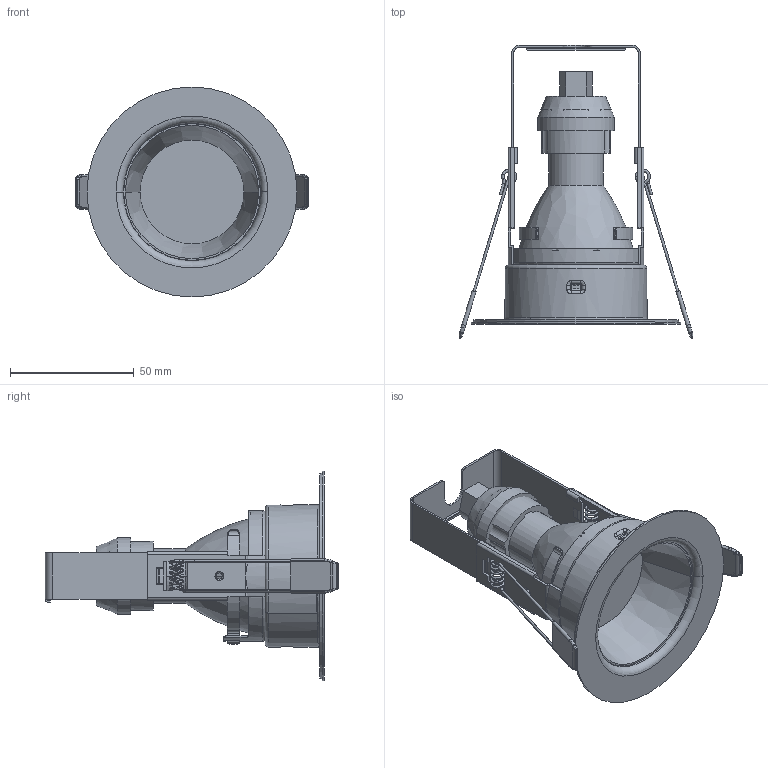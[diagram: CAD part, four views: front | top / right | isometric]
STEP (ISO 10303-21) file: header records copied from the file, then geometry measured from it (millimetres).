
FILE_DESCRIPTION((''),'2;1');
FILE_NAME('TC34016_ASM','2025-10-20T10:30:06',('Administrator'),(''),'CREO PARAMETRIC BY PTC INC, 2018100','CREO PARAMETRIC BY PTC INC, 2018100','');
FILE_SCHEMA(('CONFIG_CONTROL_DESIGN','SHAPE_APPEARANCE_LAYERS_GROUPS'));
Length unit declared in the file: millimetre
Products named in the file (17): W0624-1_02; SJ0561_02; SHENCAN65_ASM_14_A1_04_SZ_07_02_ASM; 123_04_SZ_07_02_ASM; W0200-2_07_02; F0128_07_02; GU10-DENGBEI_07_02; SJ0553_07_02; W0624-2_07_02; P0630_07_02; WG0209-1_07_02; WG0209-2_07_02; WG0737_07_02; W0614_07_02; W0201_07_02; P0190_07_02; TC34016_ASM
Assembly tree (19 placements, depth 4):
  TC34016_ASM
    123_04_SZ_07_02_ASM
      SHENCAN65_ASM_14_A1_04_SZ_07_02_ASM
        W0624-1_02
        SJ0561_02
    W0200-2_07_02
    F0128_07_02
    GU10-DENGBEI_07_02
    SJ0553_07_02
    W0624-2_07_02  x2
    P0630_07_02  x2
    WG0209-1_07_02
    WG0209-2_07_02
    WG0737_07_02  x2
    W0614_07_02
    W0201_07_02
    P0190_07_02
Bounding box: 94.61 x 118.68 x 85 mm (x, y, z)
Volume: 82315.4 mm3; surface area: 70123.2 mm2
Topology: 17 solids, 17 shells, 985 faces, 2534 edges, 1630 vertices
Faces by surface type: plane 475, cylinder 305, bspline 92, torus 68, sphere 16, extrusion 15, cone 14
Entity records: 36784 total; most frequent: CARTESIAN_POINT 9272, ORIENTED_EDGE 4376, DIRECTION 4301, EDGE_CURVE 2188, PRESENTATION_STYLE_ASSIGNMENT 2083, STYLED_ITEM 2083, CURVE_STYLE 2072, AXIS2_PLACEMENT_3D 1515
